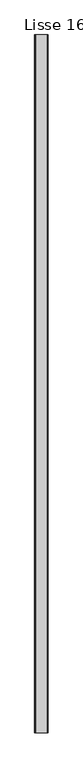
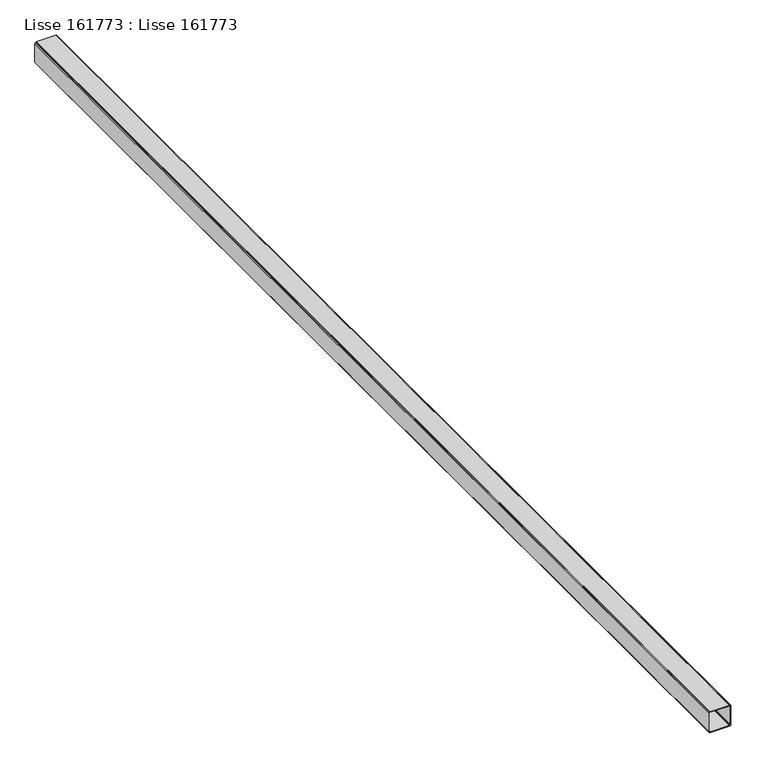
"""IFC4 building model written with IfcOpenShell, lengths in millimetres: beam geometry, Lisse 161773 : Lisse 161773."""

from ifc_helpers import new_model, si_unit, frame, origin, place, context, project, spatial, polyline, outline, extrude, source, transform, mapped, element, save


def lisse_161773_lisse_161773_46e09ef6(model_context):
    return source(origin(), model_context, "Body", "SweptSolid", [
        extrude(outline(polyline([(1006.0, -180.0000001), (1003.0, -179.1961526), (1000.8038476, -177.0000001), (1000.0, -174.0000001), (1000.0, -86.0000001), (1000.8038476, -83.0000001), (1003.0, -80.8038477), (1006.0, -80.0000001), (1094.0, -80.0000001), (1097.0, -80.8038477), (1099.1961524, -83.0000001), (1100.0, -86.0000001), (1100.0, -174.0000001), (1099.1961524, -177.0000001), (1097.0, -179.1961526), (1094.0, -180.0000001), (1006.0, -180.0000001)]), holes=[polyline([(1092.0, -176.0000001), (1094.0, -175.4641017), (1095.4641016, -174.0000001), (1096.0, -172.0000001), (1096.0, -88.0000001), (1095.4641016, -86.0000001), (1094.0, -84.5358985), (1092.0, -84.0000001), (1008.0, -84.0000001), (1006.0, -84.5358985), (1004.5358984, -86.0000001), (1004.0, -88.0000001), (1004.0, -172.0000001), (1004.5358984, -174.0000001), (1006.0, -175.4641017), (1008.0, -176.0000001), (1092.0, -176.0000001)])]), frame((0.0, -39730.0, 0.0), z_axis=(0.0, 1.0, 0.0), x_axis=(0.0, 0.0, 1.0)), (0.0, 0.0, 1.0), 5245.0),
    ])


if __name__ == "__main__":
    model = new_model("IFC4")
    model_context = context("Model", 3, world=origin())
    ifc_project = project(units=[si_unit("LENGTHUNIT", "METRE", prefix="MILLI")], contexts=[model_context])
    site = spatial("IfcSite", under=ifc_project)
    building = spatial("IfcBuilding", under=site)
    placement = place(None, origin())
    lisse_161773_lisse_161773_shape = lisse_161773_lisse_161773_46e09ef6(model_context)
    element("IfcBeam", 1, ObjectType="Lisse 161773 : Lisse 161773", at=placement, inside=building, context=model_context, shape_type="MappedRepresentation", body=[
        mapped(lisse_161773_lisse_161773_shape, transform((0.0, 0.0, 0.0), x_axis=(1.0, 0.0, 0.0), y_axis=(0.0, 1.0, 0.0), z_axis=(0.0, 0.0, 1.0))),
    ])
    save(model, "model.ifc")
